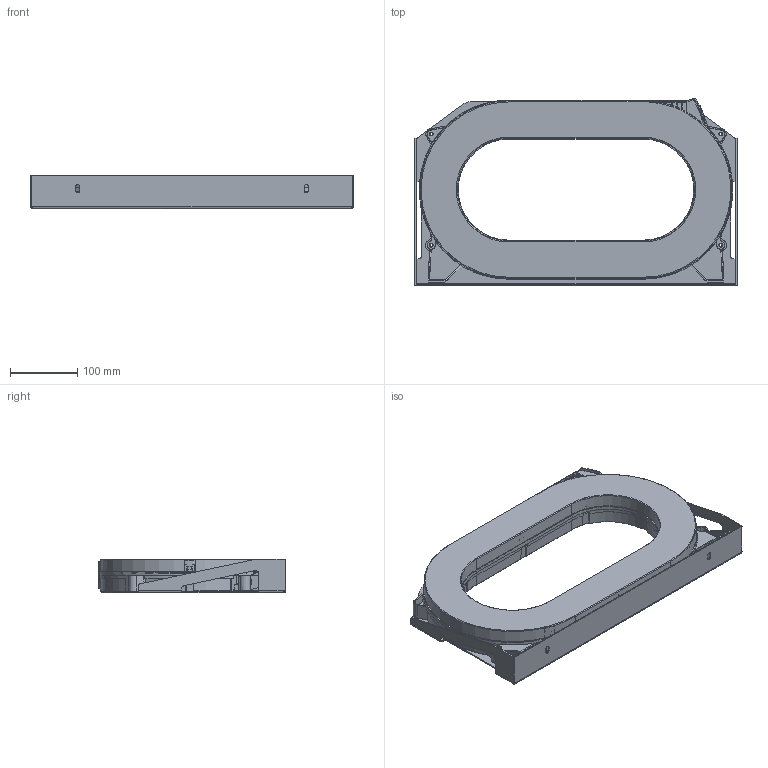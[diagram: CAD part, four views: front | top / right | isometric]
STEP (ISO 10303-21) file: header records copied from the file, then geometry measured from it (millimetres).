
FILE_DESCRIPTION((''),'2;1');
FILE_NAME('CON_SOPORTE_SW0001','2020-11-09T11:47:18',('esors'),(''),'CREO PARAMETRIC BY PTC INC, 2018260','CREO PARAMETRIC BY PTC INC, 2018260','');
FILE_SCHEMA(('AUTOMOTIVE_DESIGN { 1 0 10303 214 1 1 1 1 }'));
Products named in the file (1): CON_SOPORTE_SW0001
Bounding box: 479 x 278.81 x 50.2 mm (x, y, z)
Volume: 787613.3 mm3; surface area: 618468.6 mm2
Topology: 1 solids, 1 shells, 1762 faces, 4844 edges, 3101 vertices
Faces by surface type: plane 956, cylinder 396, cone 224, bspline 84, torus 56, sphere 38, extrusion 8
Entity records: 66026 total; most frequent: CARTESIAN_POINT 20658, ORIENTED_EDGE 9688, DIRECTION 8365, EDGE_CURVE 4844, VERTEX_POINT 3101, AXIS2_PLACEMENT_3D 2837, VECTOR 2691, LINE 2683
